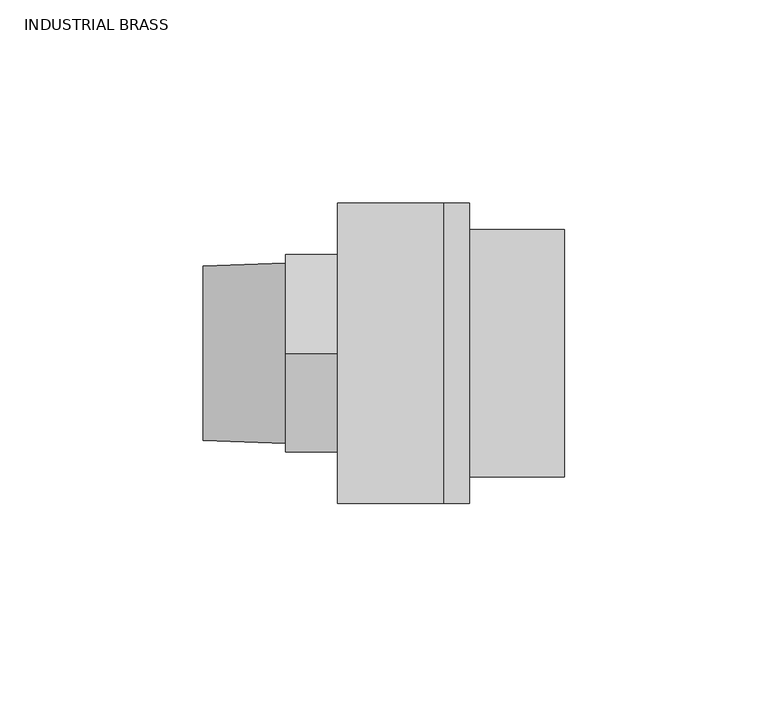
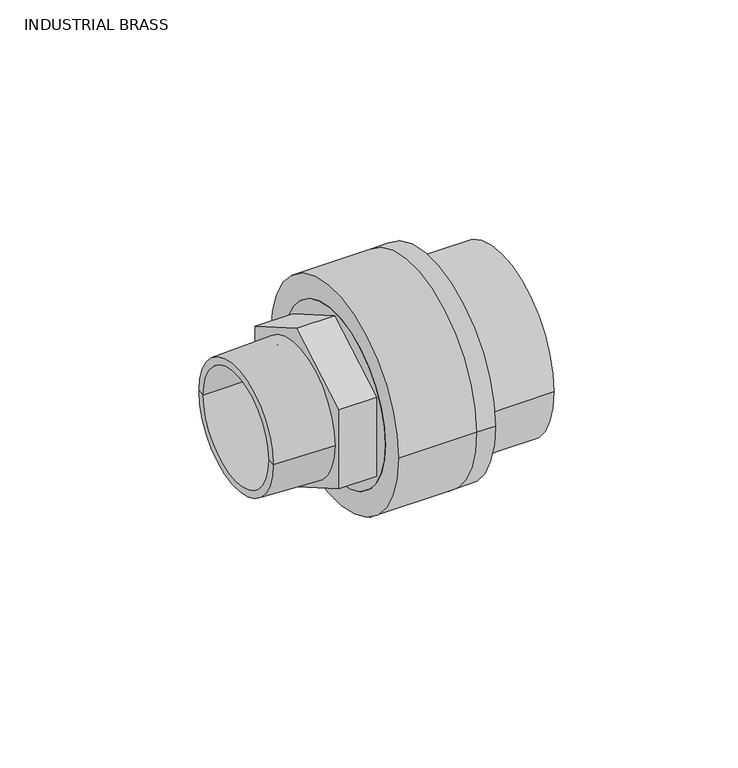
"""IFC4 building model written with IfcOpenShell, lengths in millimetres: valve geometry, Aquatherm - Transition Piece - M HEX : INDUSTRIAL BRASS."""

from ifc_helpers import new_model, si_unit, frame, origin, place, context, project, spatial, polyline, circle_curve, source, transform, mapped, element, save
from ifc_brep_helpers import plane_surface, cylinder_surface, revolved_surface, advanced_brep


def industrial_brass_fac77930(model_context):
    return source(origin(), model_context, "Body", "AdvancedBrep", [
        advanced_brep(
        [(26.162, -29.21, 0.0), (26.162, 29.21, 0.0), (26.162, -19.05, 0.0), (26.162, 19.05, 0.0), (0.0, -29.21, 0.0), (0.0, 29.21, 0.0), (0.0, 0.0, -28.009571), (0.0, 24.257, -14.0047855), (0.0, 24.257, 14.0047855), (0.0, 0.0, 28.009571), (0.0, -24.257, 14.0047855), (0.0, -24.257, -14.0047855), (0.0, -19.05, 0.0), (0.0, 19.05, 0.0), (-12.7, 0.0, -28.009571), (-12.7, -24.257, -14.0047855), (-12.7, -24.257, 14.0047855), (-12.7, 0.0, 28.009571), (-12.7, 24.257, 14.0047855), (-12.7, 24.257, -14.0047855), (-12.7, -22.1609144, 0.0), (-12.7, 22.1609144, 0.0), (-12.7, -19.05, 0.0), (-12.7, 19.05, 0.0), (-33.02, 19.05, 0.0), (-33.02, -19.05, 0.0), (-33.02, 21.4953356, 0.0), (-33.02, -21.4953356, 0.0)],
        [
            (0, 1, circle_curve(frame((26.162, 0.0, 0.0), z_axis=(1.0, 0.0, 0.0), x_axis=(0.0, 1.0, 0.0)), 29.21)),
            (1, 0, circle_curve(frame((26.162, 0.0, 0.0), z_axis=(1.0, 0.0, 0.0), x_axis=(0.0, 1.0, 0.0)), 29.21)),
            (2, 3, circle_curve(frame((26.162, 0.0, 0.0), z_axis=(-1.0, 0.0, 0.0), x_axis=(0.0, 1.0, 0.0)), 19.05)),
            (3, 2, circle_curve(frame((26.162, 0.0, 0.0), z_axis=(-1.0, 0.0, 0.0), x_axis=(0.0, 1.0, 0.0)), 19.05)),
            (4, 5, circle_curve(frame((0.0, 0.0, 0.0), z_axis=(-1.0, 0.0, 0.0), x_axis=(0.0, 1.0, 0.0)), 29.21)),
            (5, 4, circle_curve(frame((0.0, 0.0, 0.0), z_axis=(-1.0, 0.0, 0.0), x_axis=(0.0, 1.0, 0.0)), 29.21)),
            (6, 7),
            (7, 8),
            (8, 9),
            (9, 10),
            (10, 11),
            (11, 6),
            (0, 4),
            (5, 1),
            (2, 12),
            (12, 13, circle_curve(frame((0.0, 0.0, 0.0), z_axis=(-1.0, 0.0, 0.0), x_axis=(0.0, 1.0, 0.0)), 19.05)),
            (13, 3),
            (13, 12, circle_curve(frame((0.0, 0.0, 0.0), z_axis=(-1.0, 0.0, 0.0), x_axis=(0.0, 1.0, 0.0)), 19.05)),
            (14, 15),
            (15, 16),
            (16, 17),
            (17, 18),
            (18, 19),
            (19, 14),
            (20, 21, circle_curve(frame((-12.7, 0.0, 0.0), z_axis=(1.0, 0.0, 0.0), x_axis=(0.0, 1.0, 0.0)), 22.1609144)),
            (21, 20, circle_curve(frame((-12.7, 0.0, 0.0), z_axis=(1.0, 0.0, 0.0), x_axis=(0.0, 1.0, 0.0)), 22.1609144)),
            (19, 7),
            (6, 14),
            (18, 8),
            (17, 9),
            (16, 10),
            (15, 11),
            (12, 22),
            (22, 23, circle_curve(frame((-12.7, 0.0, 0.0), z_axis=(-1.0, 0.0, 0.0), x_axis=(0.0, 1.0, 0.0)), 19.05)),
            (23, 13),
            (23, 22, circle_curve(frame((-12.7, 0.0, 0.0), z_axis=(-1.0, 0.0, 0.0), x_axis=(0.0, 1.0, 0.0)), 19.05)),
            (23, 24),
            (24, 25, circle_curve(frame((-33.02, 0.0, 0.0), z_axis=(-1.0, 0.0, 0.0), x_axis=(0.0, 1.0, 0.0)), 19.05)),
            (25, 22),
            (25, 24, circle_curve(frame((-33.02, 0.0, 0.0), z_axis=(-1.0, 0.0, 0.0), x_axis=(0.0, 1.0, 0.0)), 19.05)),
            (24, 26),
            (26, 27, circle_curve(frame((-33.02, 0.0, 0.0), z_axis=(-1.0, 0.0, 0.0), x_axis=(0.0, 1.0, 0.0)), 21.4953356)),
            (27, 25),
            (27, 26, circle_curve(frame((-33.02, 0.0, 0.0), z_axis=(-1.0, 0.0, 0.0), x_axis=(0.0, 1.0, 0.0)), 21.4953356)),
            (26, 21),
            (20, 27),
        ],
        [
            plane_surface(frame((26.162, 29.21, 0.0), z_axis=(1.0, 0.0, 0.0), x_axis=(0.0, 0.0, 1.0))),
            plane_surface(frame((0.0, 29.21, 0.0), z_axis=(-1.0, 0.0, 0.0), x_axis=(0.0, 0.0, -1.0))),
            cylinder_surface(frame((0.0, 0.0, 0.0), z_axis=(1.0, 0.0, 0.0), x_axis=(0.0, 1.0, 0.0)), 29.21),
            revolved_surface(polyline([(0.0, 19.05, 0.0), (26.162, 19.05, 0.0)]), (17.447219, 0.0, 0.0), (-1.0, 0.0, 0.0)),
            plane_surface(frame((-12.7, 0.0, -28.009571), z_axis=(-1.0, 0.0, 0.0), x_axis=(0.0, -0.8660254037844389, -0.4999999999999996))),
            plane_surface(frame((0.0, 0.0, -28.009571), z_axis=(0.0, 0.4999999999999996, -0.8660254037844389), x_axis=(-1.0, 0.0, 0.0))),
            plane_surface(frame((0.0, 24.257, -14.0047855), z_axis=(0.0, 1.0, 0.0), x_axis=(-1.0, 0.0, 0.0))),
            plane_surface(frame((0.0, 24.257, 14.0047855), z_axis=(0.0, 0.49999999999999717, 0.8660254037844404), x_axis=(-1.0, 0.0, 0.0))),
            plane_surface(frame((0.0, 0.0, 28.009571), z_axis=(0.0, -0.5000000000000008, 0.8660254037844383), x_axis=(-1.0, 0.0, 0.0))),
            plane_surface(frame((0.0, -24.257, 14.0047855), z_axis=(0.0, -1.0, 0.0), x_axis=(-1.0, 0.0, 0.0))),
            plane_surface(frame((0.0, -24.257, -14.0047855), z_axis=(0.0, -0.499999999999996, -0.8660254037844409), x_axis=(-1.0, 0.0, 0.0))),
            revolved_surface(polyline([(-12.7, 19.05, 0.0), (0.0, 19.05, 0.0)]), (0.0, 0.0, 0.0), (-1.0, 0.0, 0.0)),
            revolved_surface(polyline([(-33.02, 19.05, 0.0), (-12.700000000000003, 19.05, 0.0)]), (-67.8930688, 0.0, 0.0), (-1.0, 0.0, 0.0)),
            plane_surface(frame((-33.02, 0.0, 0.0), z_axis=(-1.0, 0.0, 0.0), x_axis=(0.0, 1.0, 0.0))),
            revolved_surface(polyline([(-12.7, 22.1609144, 0.0), (-33.02, 21.4953356, 0.0)]), (-67.8930688, 0.0, 0.0), (-1.0, 0.0, 0.0)),
        ],
        [
            (0, [[1, 2], [3, 4]]),
            (1, [[5, 6], [7, 8, 9, 10, 11, 12]]),
            (2, [[-1, 13, -6, 14]]),
            (2, [[-2, -14, -5, -13]]),
            (3, [[-3, 15, 16, 17]]),
            (3, [[-4, -17, 18, -15]]),
            (4, [[19, 20, 21, 22, 23, 24], [25, 26]]),
            (5, [[-24, 27, -7, 28]]),
            (6, [[-23, 29, -8, -27]]),
            (7, [[-22, 30, -9, -29]]),
            (8, [[-21, 31, -10, -30]]),
            (9, [[-20, 32, -11, -31]]),
            (10, [[-19, -28, -12, -32]]),
            (11, [[33, 34, 35, -16]]),
            (11, [[-33, -18, -35, 36]]),
            (12, [[37, 38, 39, -36]]),
            (12, [[-37, -34, -39, 40]]),
            (13, [[-38, 41, 42, 43]]),
            (13, [[-40, -43, 44, -41]]),
            (14, [[-42, 45, -25, 46]]),
            (14, [[-44, -46, -26, -45]]),
        ],
    ),
        advanced_brep(
        [(0.0, -36.957, 0.0), (0.0, 36.957, 0.0), (0.0, -29.21, 0.0), (0.0, 29.21, 0.0), (26.162, 36.957, 0.0), (26.162, -36.957, 0.0), (26.162, 29.21, 0.0), (26.162, -29.21, 0.0), (32.512, -36.957, 0.0), (32.512, 36.957, 0.0), (32.512, 30.48, 0.0), (32.512, -30.48, 0.0), (32.512, 25.019, 0.0), (32.512, -25.019, 0.0), (32.512, -19.05, 0.0), (32.512, 19.05, 0.0), (26.162, -19.05, 0.0), (26.162, 19.05, 0.0), (55.88, -30.48, 0.0), (55.88, 30.48, 0.0), (55.88, -25.019, 0.0), (55.88, 25.019, 0.0)],
        [
            (0, 1, circle_curve(frame((0.0, 0.0, 0.0), z_axis=(-1.0, 0.0, 0.0), x_axis=(0.0, 1.0, 0.0)), 36.957)),
            (1, 0, circle_curve(frame((0.0, 0.0, 0.0), z_axis=(-1.0, 0.0, 0.0), x_axis=(0.0, 1.0, 0.0)), 36.957)),
            (2, 3, circle_curve(frame((0.0, 0.0, 0.0), z_axis=(1.0, 0.0, 0.0), x_axis=(0.0, 1.0, 0.0)), 29.21)),
            (3, 2, circle_curve(frame((0.0, 0.0, 0.0), z_axis=(1.0, 0.0, 0.0), x_axis=(0.0, 1.0, 0.0)), 29.21)),
            (1, 4),
            (4, 5, circle_curve(frame((26.162, 0.0, 0.0), z_axis=(-1.0, 0.0, 0.0), x_axis=(0.0, 1.0, 0.0)), 36.957)),
            (5, 0),
            (5, 4, circle_curve(frame((26.162, 0.0, 0.0), z_axis=(-1.0, 0.0, 0.0), x_axis=(0.0, 1.0, 0.0)), 36.957)),
            (3, 6),
            (6, 7, circle_curve(frame((26.162, 0.0, 0.0), z_axis=(1.0, 0.0, 0.0), x_axis=(0.0, 1.0, 0.0)), 29.21)),
            (7, 2),
            (7, 6, circle_curve(frame((26.162, 0.0, 0.0), z_axis=(1.0, 0.0, 0.0), x_axis=(0.0, 1.0, 0.0)), 29.21)),
            (8, 9, circle_curve(frame((32.512, 0.0, 0.0), z_axis=(1.0, 0.0, 0.0), x_axis=(0.0, 1.0, 0.0)), 36.957)),
            (9, 8, circle_curve(frame((32.512, 0.0, 0.0), z_axis=(1.0, 0.0, 0.0), x_axis=(0.0, 1.0, 0.0)), 36.957)),
            (10, 11, circle_curve(frame((32.512, 0.0, 0.0), z_axis=(-1.0, 0.0, 0.0), x_axis=(0.0, 1.0, 0.0)), 30.48)),
            (11, 10, circle_curve(frame((32.512, 0.0, 0.0), z_axis=(-1.0, 0.0, 0.0), x_axis=(0.0, 1.0, 0.0)), 30.48)),
            (12, 13, circle_curve(frame((32.512, 0.0, 0.0), z_axis=(1.0, 0.0, 0.0), x_axis=(0.0, 1.0, 0.0)), 25.019)),
            (13, 12, circle_curve(frame((32.512, 0.0, 0.0), z_axis=(1.0, 0.0, 0.0), x_axis=(0.0, 1.0, 0.0)), 25.019)),
            (14, 15, circle_curve(frame((32.512, 0.0, 0.0), z_axis=(-1.0, 0.0, 0.0), x_axis=(0.0, 1.0, 0.0)), 19.05)),
            (15, 14, circle_curve(frame((32.512, 0.0, 0.0), z_axis=(-1.0, 0.0, 0.0), x_axis=(0.0, 1.0, 0.0)), 19.05)),
            (16, 17, circle_curve(frame((26.162, 0.0, 0.0), z_axis=(1.0, 0.0, 0.0), x_axis=(0.0, 1.0, 0.0)), 19.05)),
            (17, 16, circle_curve(frame((26.162, 0.0, 0.0), z_axis=(1.0, 0.0, 0.0), x_axis=(0.0, 1.0, 0.0)), 19.05)),
            (8, 5),
            (4, 9),
            (14, 16),
            (17, 15),
            (18, 19, circle_curve(frame((55.88, 0.0, 0.0), z_axis=(1.0, 0.0, 0.0), x_axis=(0.0, 1.0, 0.0)), 30.48)),
            (19, 18, circle_curve(frame((55.88, 0.0, 0.0), z_axis=(1.0, 0.0, 0.0), x_axis=(0.0, 1.0, 0.0)), 30.48)),
            (20, 21, circle_curve(frame((55.88, 0.0, 0.0), z_axis=(-1.0, 0.0, 0.0), x_axis=(0.0, 1.0, 0.0)), 25.019)),
            (21, 20, circle_curve(frame((55.88, 0.0, 0.0), z_axis=(-1.0, 0.0, 0.0), x_axis=(0.0, 1.0, 0.0)), 25.019)),
            (18, 11),
            (10, 19),
            (20, 13),
            (12, 21),
        ],
        [
            plane_surface(frame((0.0, 36.957, 0.0), z_axis=(-1.0, 0.0, 0.0), x_axis=(0.0, 0.0, -1.0))),
            cylinder_surface(frame((0.0, 0.0, 0.0), z_axis=(1.0, 0.0, 0.0), x_axis=(0.0, 1.0, 0.0)), 36.957),
            revolved_surface(polyline([(0.0, 29.21, 0.0), (26.162, 29.21, 0.0)]), (-38.1, 0.0, 0.0), (-1.0, 0.0, 0.0)),
            plane_surface(frame((32.512, 36.957, 0.0), z_axis=(1.0, 0.0, 0.0), x_axis=(0.0, 0.0, 1.0))),
            plane_surface(frame((26.162, 36.957, 0.0), z_axis=(-1.0, 0.0, 0.0), x_axis=(0.0, 0.0, -1.0))),
            cylinder_surface(frame((26.162, 0.0, 0.0), z_axis=(1.0, 0.0, 0.0), x_axis=(0.0, 1.0, 0.0)), 36.957),
            revolved_surface(polyline([(26.162000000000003, 19.05, 0.0), (32.512, 19.05, 0.0)]), (-19.05, 0.0, 0.0), (-1.0, 0.0, 0.0)),
            plane_surface(frame((55.88, 30.48, 0.0), z_axis=(1.0, 0.0, 0.0), x_axis=(0.0, 0.0, 1.0))),
            cylinder_surface(frame((32.512, 0.0, 0.0), z_axis=(1.0, 0.0, 0.0), x_axis=(0.0, 1.0, 0.0)), 30.48),
            revolved_surface(polyline([(32.512, 25.019, 0.0), (55.88, 25.019, 0.0)]), (0.0, 0.0, 0.0), (-1.0, 0.0, 0.0)),
        ],
        [
            (0, [[1, 2], [3, 4]]),
            (1, [[-2, 5, 6, 7]]),
            (1, [[-1, -7, 8, -5]]),
            (2, [[-4, 9, 10, 11]]),
            (2, [[-3, -11, 12, -9]]),
            (3, [[13, 14], [15, 16]]),
            (3, [[17, 18], [19, 20]]),
            (4, [[-10, -12], [21, 22]]),
            (5, [[-13, 23, -6, 24]]),
            (5, [[-14, -24, -8, -23]]),
            (6, [[-19, 25, -22, 26]]),
            (6, [[-20, -26, -21, -25]]),
            (7, [[27, 28], [29, 30]]),
            (8, [[-27, 31, -15, 32]]),
            (8, [[-28, -32, -16, -31]]),
            (9, [[-29, 33, -17, 34]]),
            (9, [[-30, -34, -18, -33]]),
        ],
    ),
    ])


if __name__ == "__main__":
    model = new_model("IFC4")
    model_context = context("Model", 3, world=origin())
    ifc_project = project(units=[si_unit("LENGTHUNIT", "METRE", prefix="MILLI")], contexts=[model_context])
    site = spatial("IfcSite", under=ifc_project)
    building = spatial("IfcBuilding", under=site)
    placement = place(None, origin())
    industrial_brass_shape = industrial_brass_fac77930(model_context)
    element("IfcValve", 1, ObjectType="Aquatherm - Transition Piece - M HEX : INDUSTRIAL BRASS", at=placement, inside=building, context=model_context, shape_type="MappedRepresentation", body=[
        mapped(industrial_brass_shape, transform((0.0, 0.0, 0.0), x_axis=(1.0, 0.0, 0.0), y_axis=(0.0, 1.0, 0.0), z_axis=(0.0, 0.0, 1.0))),
    ])
    save(model, "model.ifc")
